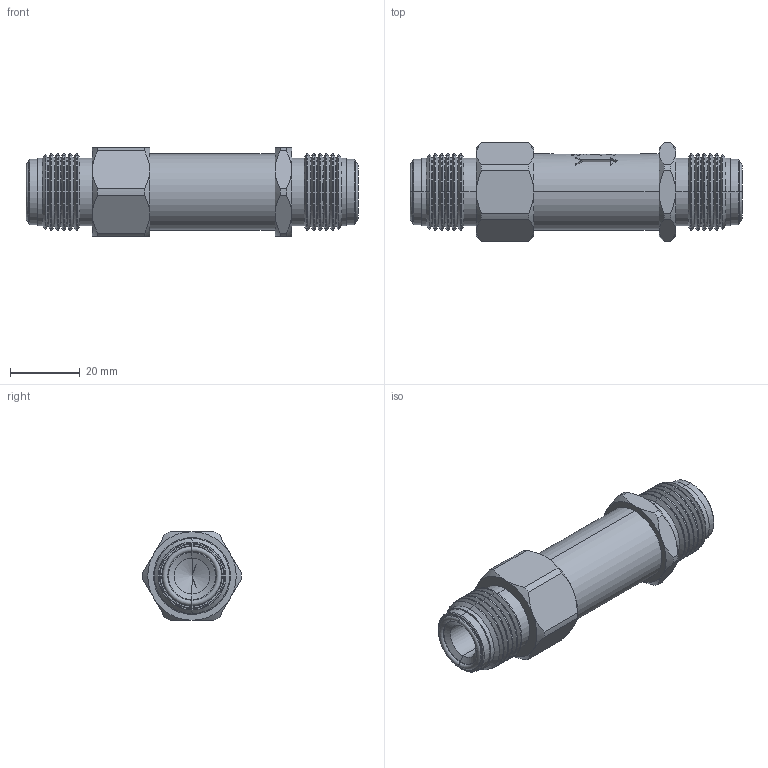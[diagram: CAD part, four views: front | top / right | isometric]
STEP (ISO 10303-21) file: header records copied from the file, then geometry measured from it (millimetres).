
FILE_DESCRIPTION (( 'STEP AP203' ), '1' );
FILE_NAME ('IRV8V.STEP', '2020-08-13T14:27:28', ( '' ), ( '' ), 'SwSTEP 2.0', 'SolidWorks 2020', '' );
FILE_SCHEMA (( 'CONFIG_CONTROL_DESIGN' ));
Length unit declared in the file: inch
Products named in the file (2): IRV8V; Part5^IRV8V
Assembly tree (1 placements, depth 2):
  IRV8V
    Part5^IRV8V
Bounding box: 95.24 x 28.31 x 25.4 mm (x, y, z)
Volume: 34874.9 mm3; surface area: 9821.1 mm2
Topology: 1 solids, 1 shells, 406 faces, 988 edges, 612 vertices
Faces by surface type: plane 151, cylinder 93, cone 84, bspline 70, torus 8
Entity records: 16761 total; most frequent: CARTESIAN_POINT 7601, ORIENTED_EDGE 1968, DIRECTION 1694, EDGE_CURVE 984, AXIS2_PLACEMENT_3D 656, VERTEX_POINT 612, EDGE_LOOP 438, ADVANCED_FACE 406
